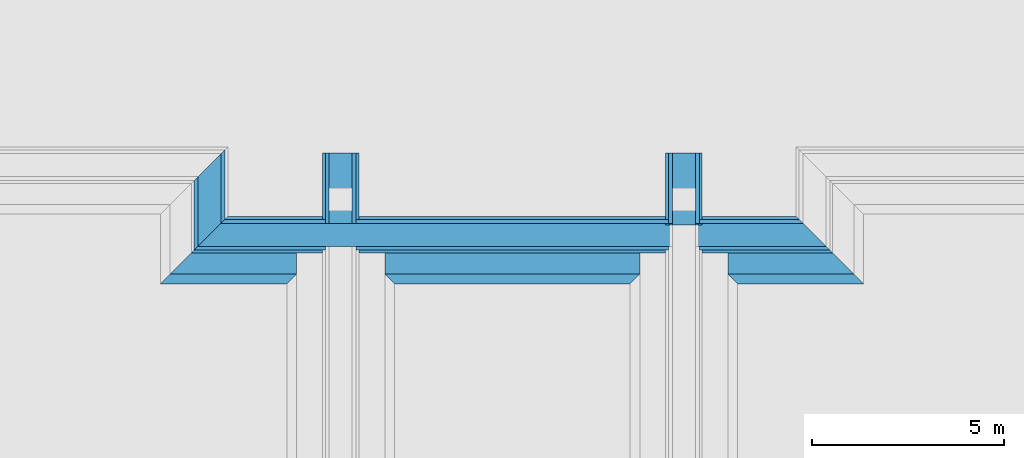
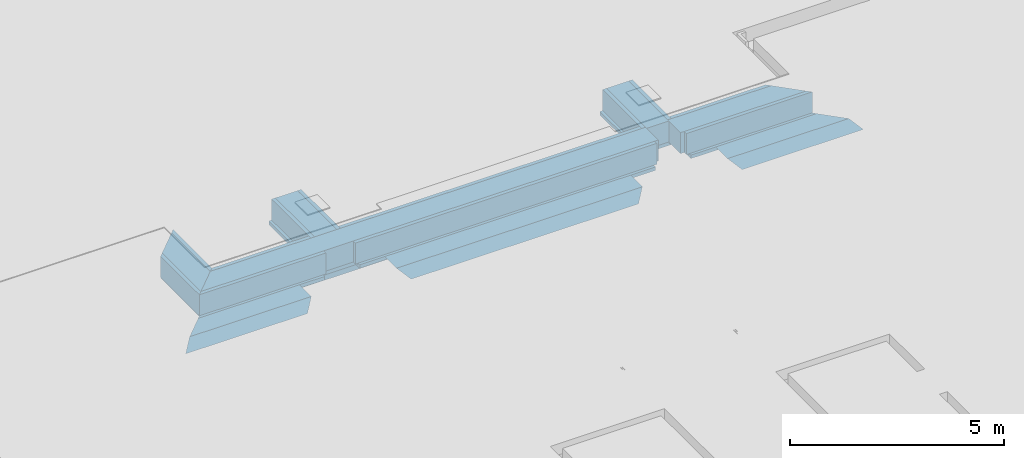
# One storey, part 13 of 15: 16 building element parts, 4 elements without a shape of their own.
"""IFC2X3 building model written with IfcOpenShell, lengths in millimetres."""

import ifcopenshell
import ifcopenshell.guid

model = None  # the IFC model being written
_history = None  # IfcOwnerHistory: only IFC2X3 demands one
_inside = {}  # id of a spatial element -> (the spatial element, [elements in it])
_under = {}  # id of a project, library or spatial element -> (it, [spatial elements below it])
_declared = {}  # id of a project -> (the project, [libraries it declares])
_typed = {}  # id of a type object -> (the type object, [elements of that type])
_made_of = {}  # id of a material, layer set ... -> (it, [elements and type objects made of it])


def new_model(schema):
    """Start an empty IFC model of exactly this schema.

    Asked for "IFC4X3", IfcOpenShell would pick the latest addendum, in which some entities
    have other attributes; the version numbers below select the first issue.
    IFC2X3 requires an IfcOwnerHistory on every rooted entity: one is made here for all.
    """
    global model, _history
    if schema == "IFC4X3":
        model = ifcopenshell.file(schema_version=(4, 3, 0, 0))
    else:
        model = ifcopenshell.file(schema=schema)
    _inside.clear()
    _under.clear()
    _declared.clear()
    _typed.clear()
    _made_of.clear()
    _history = None
    if model.schema == "IFC2X3":
        org = make("IfcOrganization", Name="unknown")
        user = make(
            "IfcPersonAndOrganization",
            ThePerson=make("IfcPerson", FamilyName="unknown"),
            TheOrganization=org,
        )
        app = make(
            "IfcApplication",
            ApplicationDeveloper=org,
            Version="unknown",
            ApplicationFullName="unknown",
            ApplicationIdentifier="unknown",
        )
        _history = make(
            "IfcOwnerHistory",
            OwningUser=user,
            OwningApplication=app,
            ChangeAction="ADDED",
            CreationDate=0,
        )
    return model


def make(cls, **values):
    """One entity of the class cls with the attributes given. An attribute that is None is left unset."""
    return model.create_entity(
        cls, **{name: value for name, value in values.items() if value is not None}
    )


def entity(cls, *values):
    """Any entity or typed value of the class cls, its attributes in the order of the schema. None: left unset."""
    e = model.create_entity(cls)
    for i, value in enumerate(values):
        if value is not None:
            e[i] = value
    return e


def rooted(cls, **values):
    """An entity with a GlobalId (a new one), such as an element, a storey or a relation."""
    return make(cls, GlobalId=ifcopenshell.guid.new(), OwnerHistory=_history, **values)


def si_unit(unit_type, name, prefix=None):
    """IfcSIUnit, for example si_unit("LENGTHUNIT", "METRE", prefix="MILLI")."""
    return make("IfcSIUnit", UnitType=unit_type, Prefix=prefix, Name=name)


def converted_unit(unit_type, name, factor, base, dimensions=None, offset=None):
    """IfcConversionBasedUnit, such as the inch: factor (a typed value) times the base unit."""
    return make(
        "IfcConversionBasedUnit"
        if offset is None
        else "IfcConversionBasedUnitWithOffset",
        ConversionOffset=offset,
        Dimensions=None
        if dimensions is None
        else entity("IfcDimensionalExponents", *dimensions),
        UnitType=unit_type,
        Name=name,
        ConversionFactor=make(
            "IfcMeasureWithUnit", ValueComponent=factor, UnitComponent=base
        ),
    )


def derived_unit(unit_type, elements):
    """IfcDerivedUnit: a product of units, each with its exponent."""
    return make(
        "IfcDerivedUnit",
        Elements=[
            make("IfcDerivedUnitElement", Unit=unit, Exponent=power)
            for unit, power in elements
        ],
        UnitType=unit_type,
    )


def money_unit(currency):
    """IfcMonetaryUnit."""
    return make("IfcMonetaryUnit", Currency=currency)


def assignment(units):
    """IfcUnitAssignment: the units of a project."""
    return None if units is None else make("IfcUnitAssignment", Units=units)


def point(xyz):
    """IfcCartesianPoint."""
    return None if xyz is None else make("IfcCartesianPoint", Coordinates=xyz)


def direction(xyz):
    """IfcDirection."""
    return None if xyz is None else make("IfcDirection", DirectionRatios=xyz)


def frame(location, z_axis=None, x_axis=None):
    """IfcAxis2Placement3D, a coordinate frame: its origin and axes. An axis left out is left unset."""
    return make(
        "IfcAxis2Placement3D",
        Location=point(location),
        Axis=direction(z_axis),
        RefDirection=direction(x_axis),
    )


def origin_with_axes():
    """The frame at (0, 0, 0) with the z axis (0, 0, 1) and the x axis (1, 0, 0) written out."""
    return frame((0.0, 0.0, 0.0), z_axis=(0.0, 0.0, 1.0), x_axis=(1.0, 0.0, 0.0))


def place(relative_to, where):
    """IfcLocalPlacement: puts the frame where relative to a parent placement (None: the world)."""
    return make(
        "IfcLocalPlacement", PlacementRelTo=relative_to, RelativePlacement=where
    )


def context(
    kind, dimensions, precision=None, world=None, true_north=None, identifier=None
):
    """IfcGeometricRepresentationContext, for example the 3D "Model" context."""
    return make(
        "IfcGeometricRepresentationContext",
        ContextIdentifier=identifier,
        ContextType=kind,
        CoordinateSpaceDimension=dimensions,
        Precision=precision,
        WorldCoordinateSystem=world,
        TrueNorth=true_north,
    )


def subcontext(parent, identifier, kind, view, scale=None):
    """IfcGeometricRepresentationSubContext, for example "Body" below "Model"."""
    return make(
        "IfcGeometricRepresentationSubContext",
        ContextIdentifier=identifier,
        ContextType=kind,
        ParentContext=parent,
        TargetScale=scale,
        TargetView=view,
    )


def project(units=None, contexts=None):
    """IfcProject with its units and contexts."""
    return rooted(
        "IfcProject",
        Name="project",
        RepresentationContexts=contexts,
        UnitsInContext=assignment(units),
    )


def spatial(cls, under=None, at=None, **own):
    """A site, building, storey or space (cls), placed at a placement, below another one or the project."""
    s = rooted(cls, ObjectPlacement=at, **own)
    if under is not None:
        _under.setdefault(under.id(), (under, []))[1].append(s)
    return s


def faces_of(points, faces, orient=None, outer=None):
    """IfcFace entities. A face is a list of loops; a loop is a list of indices into points, from 0.

    orient and outer hold one flag for each loop. By default every Orientation is true, the
    first loop of a face is its IfcFaceOuterBound and the others are IfcFaceBound.
    """
    made = []
    for i, loops in enumerate(faces):
        bounds = []
        for j, loop in enumerate(loops):
            is_outer = j == 0 if outer is None else outer[i][j]
            bounds.append(
                make(
                    "IfcFaceOuterBound" if is_outer else "IfcFaceBound",
                    Bound=make("IfcPolyLoop", Polygon=[points[k] for k in loop]),
                    Orientation=True if orient is None else orient[i][j],
                )
            )
        made.append(make("IfcFace", Bounds=bounds))
    return made


def faceted_brep(points, faces, orient=None, outer=None, voids=None):
    """IfcFacetedBrep: a solid bounded by flat faces; with voids (closed shells), ...WithVoids."""
    shared = [point(p) for p in points]
    hull = make("IfcClosedShell", CfsFaces=faces_of(shared, faces, orient, outer))
    if voids is None:
        return make("IfcFacetedBrep", Outer=hull)
    return make(
        "IfcFacetedBrepWithVoids",
        Outer=hull,
        Voids=[
            make(cls, CfsFaces=faces_of(shared, fs, o, b)) for cls, fs, o, b in voids
        ],
    )


def shape(context_of_items, identifier, shape_type, items):
    """IfcShapeRepresentation: the items that make up one representation, for example the "Body"."""
    return make(
        "IfcShapeRepresentation",
        ContextOfItems=context_of_items,
        RepresentationIdentifier=identifier,
        RepresentationType=shape_type,
        Items=items,
    )


def material(Name=None, Category=None):
    """IfcMaterial."""
    return make("IfcMaterial", Name=Name, Category=Category)


def made_of(thing, what):
    """Note that an element or type object is made of a material, layer set ...; save() writes the relation."""
    if what is not None:
        _made_of.setdefault(what.id(), (what, []))[1].append(thing)
    return thing


def type_object(cls, material=None, **own):
    """A type object (cls), such as IfcWallType, which elements share."""
    return made_of(rooted(cls, **own), material)


def element(
    cls,
    number,
    at=None,
    inside=None,
    cuts=None,
    type_object=None,
    material=None,
    context=None,
    identifier="Body",
    shape_type=None,
    held_by="IfcProductDefinitionShape",
    body=None,
    shapes=None,
    **own,
):
    """One element of the class cls, such as IfcWall. Its Tag is "e" and its number.

    at: its placement. inside: the storey or other place that contains it. cuts: it is an
    opening in that element (IfcRelVoidsElement). A single representation is given by context,
    identifier, shape_type and body (its items); several are given by shapes. held_by: the class
    of the entity that holds the representations. save() writes the other relations.
    """
    e = rooted(cls, Tag="e%d" % number, ObjectPlacement=at, **own)
    if body is not None:
        shapes = [shape(context, identifier, shape_type, body)]
    if shapes is not None:
        e.Representation = make(held_by, Representations=shapes)
    if inside is not None:
        _inside.setdefault(inside.id(), (inside, []))[1].append(e)
    if cuts is not None:
        rooted(
            "IfcRelVoidsElement", RelatingBuildingElement=cuts, RelatedOpeningElement=e
        )
    if type_object is not None:
        _typed.setdefault(type_object.id(), (type_object, []))[1].append(e)
    return made_of(e, material)


def aggregate(whole, parts):
    """IfcRelAggregates: a whole, such as a stair, and the parts it consists of."""
    return rooted("IfcRelAggregates", RelatingObject=whole, RelatedObjects=parts)


def save(model, path):
    """Write the relations noted so far, then the file.

    IfcRelAggregates (storeys below a building ...), IfcRelContainedInSpatialStructure (elements
    in a storey), IfcRelDefinesByType, IfcRelAssociatesMaterial and IfcRelDeclares: one each for
    every whole, place, type object, material and project.
    """
    for whole, parts in _under.values():
        aggregate(whole, parts)
    for where, things in _inside.values():
        rooted(
            "IfcRelContainedInSpatialStructure",
            RelatedElements=things,
            RelatingStructure=where,
        )
    for kind, things in _typed.values():
        rooted("IfcRelDefinesByType", RelatedObjects=things, RelatingType=kind)
    for what, things in _made_of.values():
        rooted("IfcRelAssociatesMaterial", RelatedObjects=things, RelatingMaterial=what)
    for by, libraries in _declared.values():
        rooted("IfcRelDeclares", RelatingContext=by, RelatedDefinitions=libraries)
    model.write(path)


model = new_model("IFC2X3")

# Units and contexts
model_context = context("Model", 3, precision=0.01, world=origin_with_axes(), true_north=direction((0.0, 1.0)))
plan_context = context("Plan", 3, precision=0.01, world=origin_with_axes(), true_north=direction((0.0, 1.0)))
body_context = subcontext(model_context, "Body", "Model", "MODEL_VIEW")
ifc_project = project(units=[si_unit("LENGTHUNIT", "METRE", prefix="MILLI"), si_unit("AREAUNIT", "SQUARE_METRE"), si_unit("VOLUMEUNIT", "CUBIC_METRE"), converted_unit("PLANEANGLEUNIT", "DEGREE", entity("IfcPlaneAngleMeasure", 0.0174532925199), si_unit("PLANEANGLEUNIT", "RADIAN"), dimensions=[0, 0, 0, 0, 0, 0, 0]), money_unit("EUR"), converted_unit("TIMEUNIT", "Year", entity("IfcTimeMeasure", 31556926.0), si_unit("TIMEUNIT", "SECOND"), dimensions=[0, 0, 1, 0, 0, 0, 0]), si_unit("MASSUNIT", "GRAM", prefix="KILO"), si_unit("THERMODYNAMICTEMPERATUREUNIT", "DEGREE_CELSIUS"), si_unit("LUMINOUSINTENSITYUNIT", "LUMEN"), si_unit("ENERGYUNIT", "JOULE", prefix="MEGA"), derived_unit("THERMALCONDUCTANCEUNIT", [(si_unit("POWERUNIT", "WATT"), 1), (si_unit("LENGTHUNIT", "METRE"), -1), (si_unit("THERMODYNAMICTEMPERATUREUNIT", "KELVIN"), -1)]), derived_unit("SPECIFICHEATCAPACITYUNIT", [(si_unit("ENERGYUNIT", "JOULE"), 1), (si_unit("MASSUNIT", "GRAM", prefix="KILO"), -1), (si_unit("THERMODYNAMICTEMPERATUREUNIT", "KELVIN"), -1)]), derived_unit("MASSDENSITYUNIT", [(si_unit("MASSUNIT", "GRAM", prefix="KILO"), 1), (si_unit("VOLUMEUNIT", "CUBIC_METRE"), -1)])], contexts=[model_context, plan_context])

# Site, building, storey
site_placement = place(None, origin_with_axes())
site = spatial("IfcSite", under=ifc_project, at=site_placement, Name="Site", CompositionType="ELEMENT")
building_placement = place(site_placement, origin_with_axes())
building = spatial("IfcBuilding", under=site, at=building_placement, Name="Naam gebouw", CompositionType="ELEMENT")
storey_placement = place(building_placement, frame((0.0, 0.0, -1050.0), z_axis=(0.0, 0.0, 1.0), x_axis=(1.0, 0.0, 0.0)))
storey = spatial("IfcBuildingStorey", under=building, at=storey_placement, Name="fundering", CompositionType="ELEMENT", Elevation=-1050.0)

# Beam, building element parts
beam_type_1 = type_object("IfcBeamType", Name="Fundering balk IsoBouw Powerkist buiten 950 x 700", PredefinedType="BEAM")
beam_1_placement = place(storey_placement, frame((35604.9999998, 47338.0, -60.0000017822), z_axis=(0.0, 0.0, 1.0), x_axis=(-1.0, 0.0, 0.0)))
beam_1 = element("IfcBeam", 1, at=beam_1_placement, inside=storey, type_object=beam_type_1, Name="28_Balk-x", ObjectType="BEAM")
ifc_material_1 = material(Name="Isolatie - EPS")
building_element_part_1_placement = place(beam_1_placement, origin_with_axes())
building_element_part_1 = element("IfcBuildingElementPart", 2, at=building_element_part_1_placement, material=ifc_material_1, Name="Isolatie - EPS", context=body_context, shape_type="Brep", body=[
    faceted_brep([(380.000371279, 0.0, 8.43651903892e-06), (380.000371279, 1834.99998878, 8.43651903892e-06), (380.000371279, 1834.99998878, -49.0824435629), (380.000371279, 0.0, -49.0824435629), (400.000361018, 0.0, 8.43651903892e-06), (400.000361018, 1834.99998878, 8.43651903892e-06), (475.000375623, 1834.99998878, 8.43651926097e-06), (475.000375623, 1834.99998878, -99.9999968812), (-475.000375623, 1834.99998878, -99.9999968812), (-475.000375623, 1834.99998878, 8.43651903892e-06), (-400.000361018, 1834.99998878, 8.43651903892e-06), (-380.000371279, 1834.99998878, 8.43651903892e-06), (-380.000371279, 1834.99998878, -49.0824435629), (-300.000369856, 1834.99998878, -49.0824435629), (-300.000369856, 1834.99998878, 8.43651903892e-06), (300.000369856, 1834.99998878, 8.43651903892e-06), (300.000369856, 1834.99998878, -49.0824435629), (300.000369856, 0.0, -49.0824435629), (300.000369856, 0.0, 8.43651903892e-06), (-300.000369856, 0.0, 8.43651903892e-06), (-300.000369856, 0.0, -49.0824435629), (-380.000371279, 0.0, -49.0824435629), (-380.000371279, 0.0, 8.43651903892e-06), (-400.000361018, 0.0, 8.43651903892e-06), (-475.000375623, 0.0, 8.43651903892e-06), (-475.000375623, 0.0, -99.9999968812), (475.000375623, 0.0, -99.9999968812), (475.000375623, 0.0, 8.43651926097e-06)], [[[0, 1, 2, 3]], [[4, 5, 1, 0]], [[2, 1, 5, 6, 7, 8, 9, 10, 11, 12, 13, 14, 15, 16]], [[3, 2, 16, 17]], [[4, 0, 3, 17, 18, 19, 20, 21, 22, 23, 24, 25, 26, 27]], [[27, 6, 5, 4]], [[26, 7, 6, 27]], [[25, 8, 7, 26]], [[24, 9, 8, 25]], [[23, 10, 9, 24]], [[22, 11, 10, 23]], [[21, 12, 11, 22]], [[20, 13, 12, 21]], [[19, 14, 13, 20]], [[18, 15, 14, 19]], [[17, 16, 15, 18]]]),
])
building_element_part_2_placement = place(beam_1_placement, origin_with_axes())
building_element_part_2 = element("IfcBuildingElementPart", 3, at=building_element_part_2_placement, material=ifc_material_1, Name="Isolatie - EPS", context=body_context, shape_type="Brep", body=[
    faceted_brep([(-380.000369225, 0.0, 2.4249691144e-06), (-400.000366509, 0.0, 2.4249691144e-06), (-400.000366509, 1834.99998878, 2.4249691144e-06), (-380.000369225, 1834.99998878, 2.4249691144e-06), (-300.00036966, 0.0, 600.000004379), (-400.000366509, 0.0, 600.000004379), (-380.000369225, 0.0, -49.0824424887), (-300.00036966, 0.0, -49.0824424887), (-400.000366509, 1834.99998878, 600.000004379), (-380.000369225, 1834.99998878, -49.0824424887), (-300.00036966, 1834.99998878, 600.000004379), (-300.00036966, 1834.99998878, -49.0824424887)], [[[0, 1, 2, 3]], [[4, 5, 1, 0, 6, 7]], [[1, 5, 8, 2]], [[9, 3, 2, 8, 10, 11]], [[6, 0, 3, 9]], [[5, 4, 10, 8]], [[7, 6, 9, 11]], [[4, 7, 11, 10]]]),
])
building_element_part_3_placement = place(beam_1_placement, origin_with_axes())
building_element_part_3 = element("IfcBuildingElementPart", 4, at=building_element_part_3_placement, material=ifc_material_1, Name="Isolatie - EPS", context=body_context, shape_type="Brep", body=[
    faceted_brep([(300.00036966, 0.0, 600.000004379), (400.000366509, 0.0, 600.000004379), (400.000366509, 1834.99998878, 600.000004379), (300.00036966, 1834.99998878, 600.000004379), (380.000369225, 0.0, 2.4249691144e-06), (400.000366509, 0.0, 2.4249691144e-06), (300.00036966, 0.0, -49.0824424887), (380.000369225, 0.0, -49.0824424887), (400.000366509, 1834.99998878, 2.4249691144e-06), (300.00036966, 1834.99998878, -49.0824424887), (380.000369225, 1834.99998878, 2.4249691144e-06), (380.000369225, 1834.99998878, -49.0824424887)], [[[0, 1, 2, 3]], [[4, 5, 1, 0, 6, 7]], [[1, 5, 8, 2]], [[9, 3, 2, 8, 10, 11]], [[6, 0, 3, 9]], [[5, 4, 10, 8]], [[7, 6, 9, 11]], [[4, 7, 11, 10]]]),
])
ifc_material_2 = material(Name="Beton gewapend C")
building_element_part_4_placement = place(beam_1_placement, origin_with_axes())
building_element_part_4 = element("IfcBuildingElementPart", 5, at=building_element_part_4_placement, material=ifc_material_2, Name="Beton gewapend C", context=body_context, shape_type="Brep", body=[
    faceted_brep([(300.000372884, 1834.99998878, 600.0), (-300.000372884, 1834.99998878, 600.0), (-300.000372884, 0.0, 600.0), (300.000372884, 0.0, 600.0), (300.000372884, 1834.99998878, 0.0), (-300.000372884, 1834.99998878, 0.0), (-300.000372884, 0.0, 0.0), (300.000372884, 0.0, 0.0)], [[[0, 1, 2, 3]], [[0, 4, 5, 1]], [[1, 5, 6, 2]], [[3, 2, 6, 7]], [[4, 0, 3, 7]], [[5, 4, 7, 6]]]),
])
aggregate(beam_1, [building_element_part_1, building_element_part_2, building_element_part_3, building_element_part_4])

beam_type_2 = type_object("IfcBeamType", Name="Fundering balk IsoBouw Powerkist buitenwand 1750 x 850", PredefinedType="BEAM")
beam_2_placement = place(storey_placement, frame((32140.0, 45153.0, -60.0000017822), z_axis=(0.0, 0.0, 1.0), x_axis=(0.0, -1.0, 0.0)))
beam_2 = element("IfcBeam", 6, at=beam_2_placement, inside=storey, type_object=beam_type_2, Name="28_Balk-x", ObjectType="BEAM")
ifc_material_3 = material(Name="ALG - TERREIN")
building_element_part_5_placement = place(beam_2_placement, origin_with_axes())
building_element_part_5 = element("IfcBuildingElementPart", 7, at=building_element_part_5_placement, material=ifc_material_3, Name="ALG - TERREIN", context=body_context, shape_type="Brep", body=[
    faceted_brep([(249.999959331, 2064.99962438, -249.999996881), (1225.00000274, 2064.99962437, -249.999996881), (1225.00000274, -1225.00000274, -249.999996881), (-49.9999938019, 49.9999938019, -249.999996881), (-49.9999938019, 11004.9996244, -249.999996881), (1225.00000274, 11004.9996244, -249.999996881), (1225.00000274, 4865.00037564, -249.999996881), (249.999959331, 4865.00037562, -249.999996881), (425.00000274, 2214.99959021, -99.9999968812), (425.00000274, 2314.99960205, 2.42768471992e-06), (975.000013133, 2314.99960205, 2.6421356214e-06), (249.999988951, 2214.99962333, -99.9999968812), (975.000013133, -975.000013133, -7.27431315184e-06), (425.000015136, -425.000015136, -7.27431315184e-06), (425.000015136, -425.000015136, -99.9999926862), (-49.9999938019, 49.9999938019, -99.9999926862), (-49.9999938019, 11154.9996286, -99.9999926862), (425.00000274, 11154.9996244, -99.9999968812), (425.00000274, 11254.999602, 7.15338899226e-07), (975.000013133, 11254.999602, 1.39454758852e-06), (975.000013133, 4615.00039795, 4.52027215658e-06), (425.00000274, 4615.00039795, 3.86505583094e-06), (425.00000274, 4715.00037562, -99.9999968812), (249.999988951, 4715.00037562, -99.9999968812), (249.999959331, 3940.00039566, -99.9999968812), (249.999959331, 2989.99960434, -99.9999968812)], [[[0, 1, 2, 3, 4, 5, 6, 7]], [[8, 9, 10, 1, 0, 11]], [[1, 10, 12, 2]], [[3, 2, 12, 13, 14, 15]], [[15, 16, 4, 3]], [[16, 17, 18, 19, 5, 4]], [[20, 6, 5, 19]], [[7, 6, 20, 21, 22, 23]], [[0, 7, 23, 24, 25, 11]], [[9, 8, 14, 13]], [[10, 9, 13, 12]], [[23, 22, 17, 16, 15, 14, 8, 11, 25, 24]], [[22, 21, 18, 17]], [[21, 20, 19, 18]]]),
    faceted_brep([(1225.00000274, 13805.0003756, -249.999996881), (-49.9999938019, 13805.0003756, -249.999996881), (-49.9999938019, 15805.0001027, -249.999996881), (1225.00000274, 17080.0004254, -249.999996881), (-49.9999938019, 13655.0003714, -99.9999926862), (975.000013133, 13555.000398, 3.76615405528e-07), (425.00000274, 13555.000398, 7.15338899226e-07), (425.00000274, 13655.0003756, -99.9999968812), (-49.9999938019, 15805.0001027, -99.9999926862), (425.000015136, 16280.0002331, -7.27431315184e-06), (975.000013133, 16830.0003718, -7.27431315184e-06), (425.000015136, 16280.0002331, -99.9999926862)], [[[0, 1, 2, 3]], [[4, 1, 0, 5, 6, 7]], [[1, 4, 8, 2]], [[9, 10, 3, 2, 8, 11]], [[5, 0, 3, 10]], [[6, 5, 10, 9]], [[7, 6, 9, 11]], [[4, 7, 11, 8]]]),
])
building_element_part_6_placement = place(beam_2_placement, origin_with_axes())
building_element_part_6 = element("IfcBuildingElementPart", 8, at=building_element_part_6_placement, material=ifc_material_1, Name="Isolatie - EPS", context=body_context, shape_type="Brep", body=[
    faceted_brep([(-525.00000274, 3940.00037561, -99.9999968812), (-525.00000274, 3940.00037561, 8.43651903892e-06), (-525.00000274, 11929.9996244, 8.43651926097e-06), (-525.00000274, 11929.9996244, -99.9999968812), (-449.999990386, 3940.00037561, 8.43651903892e-06), (-350.000011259, 3940.00037562, -99.9999968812), (-350.000011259, 3940.00037562, -49.0824415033), (-430.000002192, 3940.00037562, -49.0824424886), (-430.000002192, 3940.00037562, 8.43651903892e-06), (-449.999990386, 11929.9996244, 8.43651926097e-06), (-49.9999938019, 11929.9996244, -99.9999968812), (-430.000002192, 11929.9996244, 8.43651926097e-06), (-430.000002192, 11929.9996244, -49.082442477), (-349.99999279, 11929.9996244, -49.0824424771), (-349.99999279, 11929.9996244, 8.43651926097e-06), (249.999999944, 11929.9996244, 8.43651926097e-06), (249.99999279, 11929.9996244, -49.0824424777), (330.000002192, 11929.9996244, -49.0824424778), (330.000002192, 11929.9996244, 8.43651926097e-06), (349.999990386, 11929.9996244, 8.43651926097e-06), (425.00000274, 11929.9996244, 8.43651926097e-06), (425.00000274, 11929.9996244, -99.9999968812), (-49.9999938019, 49.9999938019, -99.9999926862), (-525.00000274, 525.00000274, -99.9999968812), (-525.00000274, 2989.99962436, -99.9999968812), (-350.00001118, 2989.99962438, -99.9999968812), (-350.00001118, 2989.99962438, -49.0824413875), (-349.99999279, 349.99999279, -49.0824410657), (-349.99999279, 349.99999279, 7.15338899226e-07), (249.99999279, -249.99999279, 7.15338899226e-07), (249.999959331, 2989.99962438, -99.9999968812), (249.999959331, 3940.00037562, -99.9999968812), (249.999959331, 3940.00037562, -49.0824415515), (249.99999279, -249.99999279, -49.0824410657), (249.999959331, 2989.99962438, -49.0824414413), (330.000002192, 3940.00037562, -49.0824424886), (330.000002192, 3940.00037562, 8.43651903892e-06), (349.999990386, 3940.00037562, 8.43651903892e-06), (425.00000274, 3940.00037562, 8.43651903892e-06), (425.00000274, 3940.00037562, -99.9999968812), (425.00000274, 2989.99962438, -99.9999968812), (425.00000274, -425.00000274, -99.9999968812), (425.00000274, -425.00000274, 7.15338899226e-07), (349.999990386, -349.999990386, 7.15338899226e-07), (330.000002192, -330.000002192, 7.15338899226e-07), (330.000002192, -330.000002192, -49.0824410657), (-430.000002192, 430.000002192, -49.0824410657), (-430.000002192, 430.000002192, 7.15338899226e-07), (-449.999990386, 449.999990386, 7.15338899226e-07), (-525.00000274, 525.00000274, 7.15338899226e-07), (-525.00000274, 2989.99962436, 8.43651926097e-06), (-449.999990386, 2989.99962437, 8.43651926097e-06), (-430.000002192, 2989.99962437, 8.43651926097e-06), (-430.000002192, 2989.99962437, -49.0824424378), (330.000002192, 2989.99962438, -49.0824424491), (330.000002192, 2989.99962438, 8.43651926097e-06), (349.999990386, 2989.99962438, 8.43651926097e-06), (425.00000274, 2989.99962438, 8.43651926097e-06)], [[[0, 1, 2, 3]], [[4, 1, 0, 5, 6, 7, 8]], [[1, 4, 9, 2]], [[10, 3, 2, 9, 11, 12, 13, 14, 15, 16, 17, 18, 19, 20, 21]], [[5, 0, 3, 10, 22, 23, 24, 25]], [[26, 27, 28, 14, 13, 6, 5, 25]], [[7, 6, 13, 12]], [[8, 7, 12, 11]], [[4, 8, 11, 9]], [[15, 14, 28, 29]], [[30, 31, 32, 16, 15, 29, 33, 34]], [[17, 16, 32, 35]], [[18, 17, 35, 36]], [[19, 18, 36, 37]], [[20, 19, 37, 38]], [[21, 20, 38, 39]], [[39, 31, 30, 40, 41, 22, 10, 21]], [[22, 41, 42, 43, 44, 45, 33, 29, 28, 27, 46, 47, 48, 49, 23]], [[50, 24, 23, 49]], [[24, 50, 51, 52, 53, 26, 25]], [[26, 53, 46, 27]], [[37, 36, 35, 32, 31, 39, 38]], [[33, 45, 54, 34]], [[40, 30, 34, 54, 55, 56, 57]], [[42, 41, 40, 57]], [[43, 42, 57, 56]], [[44, 43, 56, 55]], [[45, 44, 55, 54]], [[53, 52, 47, 46]], [[52, 51, 48, 47]], [[51, 50, 49, 48]]]),
    faceted_brep([(-525.00000274, 12880.0003756, -99.9999968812), (-525.00000274, 12880.0003756, 8.43651903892e-06), (-525.00000274, 15329.9999722, 7.15338899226e-07), (-525.00000274, 15329.9999722, -99.9999968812), (-300.0, 12880.0003756, 8.43651903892e-06), (-349.99999279, 12880.0003756, 8.43651903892e-06), (-349.99999279, 12880.0003756, -49.082442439), (-430.000002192, 12880.0003756, -49.0824424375), (-430.000002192, 12880.0003756, 8.43651903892e-06), (-449.999990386, 12880.0003756, 8.43651903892e-06), (-300.0, 12880.0003756, -99.9999968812), (-49.9999938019, 12880.0003756, -99.9999968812), (425.00000274, 12880.0003756, -99.9999968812), (425.00000274, 12880.0003756, 8.43651903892e-06), (349.999990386, 12880.0003756, 8.43651903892e-06), (330.000002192, 12880.0003756, 8.43651903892e-06), (330.000002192, 12880.0003756, -49.0824424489), (249.99999279, 12880.0003756, -49.082442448), (249.999999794, 12880.0003756, 8.43651903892e-06), (-449.999990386, 15405.0000037, 7.15338899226e-07), (249.99999279, 16105.000166, 7.15338899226e-07), (249.99999279, 16105.000166, -49.0824410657), (330.000002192, 16185.0001959, -49.0824410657), (330.000002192, 16185.0001959, 7.15338899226e-07), (349.999990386, 16205.0001892, 7.15338899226e-07), (425.00000274, 16280.0002207, 7.15338899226e-07), (425.00000274, 16280.0002207, -99.9999968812), (-49.9999938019, 15805.0001027, -99.9999926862), (-430.000002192, 15424.999997, 7.15338899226e-07), (-430.000002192, 15424.999997, -49.0824410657), (-349.99999279, 15505.0000269, -49.0824410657), (-349.99999279, 15505.0000269, 7.15338899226e-07)], [[[0, 1, 2, 3]], [[4, 5, 6, 7, 8, 9, 1, 0, 10, 11, 12, 13, 14, 15, 16, 17, 18]], [[1, 9, 19, 2]], [[20, 21, 22, 23, 24, 25, 26, 27, 3, 2, 19, 28, 29, 30, 31]], [[10, 0, 3, 27, 11]], [[5, 4, 18, 20, 31]], [[6, 5, 31, 30]], [[7, 6, 30, 29]], [[8, 7, 29, 28]], [[9, 8, 28, 19]], [[27, 26, 12, 11]], [[26, 25, 13, 12]], [[25, 24, 14, 13]], [[24, 23, 15, 14]], [[23, 22, 16, 15]], [[22, 21, 17, 16]], [[21, 20, 18, 17]]]),
])
building_element_part_7_placement = place(beam_2_placement, origin_with_axes())
building_element_part_7 = element("IfcBuildingElementPart", 9, at=building_element_part_7_placement, material=ifc_material_1, Name="Isolatie - EPS", context=body_context, shape_type="Brep", body=[
    faceted_brep([(-350.000011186, 3064.99963349, 600.000004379), (-350.000011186, 3064.99963898, 8.43651903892e-06), (-429.999996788, 3064.99963898, 8.43651903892e-06), (-449.999993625, 3064.99963348, 2.4249691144e-06), (-449.999993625, 3064.99963348, 600.000004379), (-350.00001118, 2989.99962438, -49.0824424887), (-350.00001118, 2989.99962438, 8.43651926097e-06), (-349.999999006, 349.999999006, 600.000001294), (-349.999999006, 349.999999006, -49.0824424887), (-429.999996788, 2989.99962437, 8.43651926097e-06), (-429.999996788, 429.999996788, 2.28759100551e-06), (-449.999993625, 449.999993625, 2.28759100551e-06), (-449.999993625, 449.999993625, 600.000001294), (-429.999996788, 2989.99962437, -49.0824424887), (-429.999996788, 429.999996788, -49.0824424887)], [[[0, 1, 2, 3, 4]], [[5, 6, 1, 0, 7, 8]], [[6, 9, 2, 1]], [[3, 2, 9, 10, 11]], [[12, 4, 3, 11]], [[7, 0, 4, 12]], [[5, 13, 9, 6]], [[8, 7, 12, 11, 10, 14]], [[14, 13, 5, 8]], [[10, 9, 13, 14]]]),
    faceted_brep([(-429.999996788, 11929.9996244, -49.0824424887), (-429.999996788, 3940.00037562, -49.0824424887), (-429.999996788, 3940.00037562, 8.43651903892e-06), (-429.999996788, 11929.9996244, 8.43651926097e-06), (-349.999999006, 11929.9996244, -49.0824424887), (-350.000011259, 3940.00037562, -49.0824424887), (-350.000011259, 3940.00037562, 8.43651903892e-06), (-429.999996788, 3865.00036101, 8.43651903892e-06), (-449.999993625, 3865.0003665, 2.4249691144e-06), (-449.999993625, 12004.9996335, 2.4249691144e-06), (-429.999996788, 12004.999639, 8.43651903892e-06), (-349.999999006, 11929.9996244, 8.43651926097e-06), (-350.000011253, 3865.00036102, 8.43651903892e-06), (-349.999999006, 12004.999639, 8.43651903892e-06), (-349.999999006, 12004.9996335, 600.000004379), (-350.000011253, 3865.00036651, 600.000004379), (-449.999993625, 3865.0003665, 600.000004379), (-449.999993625, 12004.9996335, 600.000004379)], [[[0, 1, 2, 3]], [[4, 5, 1, 0]], [[6, 2, 1, 5]], [[3, 2, 7, 8, 9, 10]], [[11, 4, 0, 3]], [[12, 6, 5, 4, 11, 13, 14, 15]], [[12, 7, 2, 6]], [[8, 7, 12, 15, 16]], [[9, 8, 16, 17]], [[17, 14, 13, 10, 9]], [[13, 11, 3, 10]], [[17, 16, 15, 14]]]),
    faceted_brep([(-429.999996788, 15425.0000024, -49.0824424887), (-429.999996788, 12880.0003756, -49.0824424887), (-429.999996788, 12880.0003756, 8.43651903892e-06), (-429.999996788, 15425.0000024, 2.28759100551e-06), (-349.999999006, 15505.0000207, -49.0824424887), (-349.999999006, 12880.0003756, -49.0824424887), (-349.999999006, 12880.0003756, 8.43651903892e-06), (-429.999996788, 12805.000361, 8.43651903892e-06), (-449.999993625, 12805.0003665, 2.4249691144e-06), (-449.999993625, 15405.0000005, 2.28759100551e-06), (-449.999993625, 15405.0000005, 600.000001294), (-349.999999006, 15505.0000207, 600.000001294), (-349.999999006, 12805.000361, 8.43651903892e-06), (-349.999999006, 12805.0003665, 600.000004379), (-449.999993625, 12805.0003665, 600.000004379)], [[[0, 1, 2, 3]], [[4, 5, 1, 0]], [[6, 2, 1, 5]], [[3, 2, 7, 8, 9]], [[0, 3, 9, 10, 11, 4]], [[12, 6, 5, 4, 11, 13]], [[12, 7, 2, 6]], [[8, 7, 12, 13, 14]], [[9, 8, 14, 10]], [[10, 14, 13, 11]]]),
])
building_element_part_8_placement = place(beam_2_placement, origin_with_axes())
building_element_part_8 = element("IfcBuildingElementPart", 10, at=building_element_part_8_placement, material=ifc_material_1, Name="Isolatie - EPS", context=body_context, shape_type="Brep", body=[
    faceted_brep([(349.999993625, 3064.99963349, 2.41745157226e-06), (329.999996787, 3064.99963898, 8.43651903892e-06), (249.999959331, 3064.99963898, 8.43651903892e-06), (249.999959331, 3064.99963349, 600.000004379), (349.999993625, 3064.99963349, 600.000004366), (329.999996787, -329.999996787, 4.06975675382e-06), (329.999996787, 2989.99962438, 8.43651926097e-06), (349.999993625, -349.999993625, 4.06975675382e-06), (249.999959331, 2989.99962438, 8.43651926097e-06), (249.999959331, 2989.99962438, -49.0824424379), (249.999999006, -249.999999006, -49.0824407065), (249.999999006, -249.999999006, 600.000003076), (349.999993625, -349.999993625, 600.000003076), (329.999996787, -329.999996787, -49.0824407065), (329.999996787, 2989.99962438, -49.0824424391)], [[[0, 1, 2, 3, 4]], [[5, 6, 1, 0, 7]], [[6, 8, 2, 1]], [[2, 8, 9, 10, 11, 3]], [[12, 4, 3, 11]], [[7, 0, 4, 12]], [[13, 14, 6, 5]], [[13, 5, 7, 12, 11, 10]], [[14, 9, 8, 6]], [[10, 9, 14, 13]]]),
    faceted_brep([(249.999959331, 3940.00037562, -49.0824424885), (249.999959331, 3940.00037562, 8.43651903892e-06), (249.999959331, 3865.00036102, 8.43651903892e-06), (249.999959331, 3865.00036651, 600.000004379), (250.0, 12004.9996335, 600.000001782), (250.0, 12004.999639, 8.43651903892e-06), (249.999999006, 11929.9996244, 8.43651926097e-06), (249.999999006, 11929.9996244, -49.0824424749), (329.999996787, 3940.00037562, 8.43651903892e-06), (329.999996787, 3940.00037562, -49.0824424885), (329.999996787, 3865.00036102, 8.43651903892e-06), (349.999993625, 3865.00036651, 2.40048181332e-06), (349.999993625, 3865.00036651, 600.000004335), (349.999993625, 12004.9996335, 600.000001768), (349.999993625, 12004.9996335, 1.76152359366e-06), (329.999996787, 12004.999639, 8.43651903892e-06), (329.999996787, 11929.9996244, 8.43651926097e-06), (329.999996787, 11929.9996244, -49.082442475)], [[[0, 1, 2, 3, 4, 5, 6, 7]], [[8, 1, 0, 9]], [[10, 2, 1, 8]], [[3, 2, 10, 11, 12]], [[4, 3, 12, 13]], [[13, 14, 15, 5, 4]], [[15, 16, 6, 5]], [[16, 17, 7, 6]], [[17, 9, 0, 7]], [[16, 8, 9, 17]], [[11, 10, 8, 16, 15, 14]], [[13, 12, 11, 14]]]),
    faceted_brep([(249.999999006, 12880.0003756, -49.0824424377), (249.999999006, 12880.0003756, 8.43651903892e-06), (250.0, 12805.000361, 8.43651903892e-06), (250.0, 12805.0003665, 600.000001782), (249.999999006, 16105.0001722, 600.000003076), (249.999999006, 16105.0001722, -49.0824407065), (329.999996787, 12880.0003756, 8.43651903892e-06), (329.999996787, 12880.0003756, -49.0824424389), (329.999996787, 12805.000361, 8.43651903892e-06), (349.999993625, 12805.0003665, 1.7841415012e-06), (349.999993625, 12805.0003665, 600.00000179), (349.999993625, 16205.0001924, 600.000003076), (349.999993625, 16205.0001924, 4.06975675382e-06), (329.999996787, 16185.0001905, 4.06975675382e-06), (329.999996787, 16185.0001905, -49.0824407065)], [[[0, 1, 2, 3, 4, 5]], [[6, 1, 0, 7]], [[8, 2, 1, 6]], [[3, 2, 8, 9, 10]], [[4, 3, 10, 11]], [[5, 4, 11, 12, 13, 14]], [[14, 7, 0, 5]], [[13, 6, 7, 14]], [[9, 8, 6, 13, 12]], [[11, 10, 9, 12]]]),
])
building_element_part_9_placement = place(beam_2_placement, origin_with_axes())
building_element_part_9 = element("IfcBuildingElementPart", 11, at=building_element_part_9_placement, material=ifc_material_2, Name="Beton gewapend C", context=body_context, shape_type="Brep", body=[
    faceted_brep([(250.0, -250.0, 600.000001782), (250.0, 12104.9996271, 600.0), (-350.0, 12104.9996271, 600.0), (-350.0, 350.0, 600.0), (250.0, 12104.9996271, 0.0), (250.0, -250.0, 1.78216552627e-06), (-350.0, 12104.9996271, 0.0), (-350.0, 350.0, 0.0)], [[[0, 1, 2, 3]], [[4, 1, 0, 5]], [[1, 4, 6, 2]], [[7, 3, 2, 6]], [[5, 0, 3, 7]], [[5, 7, 6, 4]]]),
    faceted_brep([(-350.0, 15505.0000197, 0.0), (-350.0, 12705.0003729, 0.0), (-350.0, 12705.0003729, 600.0), (-350.0, 15505.0000197, 600.0), (250.0, 12705.0003729, 0.0), (250.0, 16105.0001732, 1.78216552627e-06), (250.0, 12705.0003729, 600.0), (250.0, 16105.0001732, 600.000001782)], [[[0, 1, 2, 3]], [[4, 1, 0, 5]], [[6, 2, 1, 4]], [[3, 2, 6, 7]], [[7, 5, 0, 3]], [[4, 5, 7, 6]]]),
])
aggregate(beam_2, [building_element_part_5, building_element_part_6, building_element_part_7, building_element_part_8, building_element_part_9])

beam_3_placement = place(storey_placement, frame((44545.0, 47338.0, -60.0000017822), z_axis=(0.0, 0.0, 1.0), x_axis=(-1.0, 0.0, 0.0)))
beam_3 = element("IfcBeam", 12, at=beam_3_placement, inside=storey, type_object=beam_type_1, Name="28_Balk-x", ObjectType="BEAM")
building_element_part_10_placement = place(beam_3_placement, origin_with_axes())
building_element_part_10 = element("IfcBuildingElementPart", 13, at=building_element_part_10_placement, material=ifc_material_1, Name="Isolatie - EPS", context=body_context, shape_type="Brep", body=[
    faceted_brep([(380.000371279, 0.0, 8.43651903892e-06), (380.000371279, 1885.0, 8.43651903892e-06), (380.000371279, 1885.0, -49.0824435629), (380.000371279, 0.0, -49.0824435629), (400.000361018, 0.0, 8.43651903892e-06), (400.000361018, 1885.0, 8.43651903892e-06), (475.000375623, 1885.0, 8.43651926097e-06), (475.000375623, 1885.0, -99.9999968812), (-475.000375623, 1885.0, -99.9999968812), (-475.000375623, 1885.0, 8.43651903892e-06), (-400.000361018, 1885.0, 8.43651903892e-06), (-380.000371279, 1885.0, 8.43651903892e-06), (-380.000371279, 1885.0, -49.0824435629), (-300.000369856, 1885.0, -49.0824435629), (-300.000369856, 1885.0, 8.43651903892e-06), (300.000369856, 1885.0, 8.43651903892e-06), (300.000369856, 1885.0, -49.0824435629), (300.000369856, 0.0, -49.0824435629), (300.000369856, 0.0, 8.43651903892e-06), (-300.000369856, 0.0, 8.43651903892e-06), (-300.000369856, 0.0, -49.0824435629), (-380.000371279, 0.0, -49.0824435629), (-380.000371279, 0.0, 8.43651903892e-06), (-400.000361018, 0.0, 8.43651903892e-06), (-475.000375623, 0.0, 8.43651903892e-06), (-475.000375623, 0.0, -99.9999968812), (475.000375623, 0.0, -99.9999968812), (475.000375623, 0.0, 8.43651926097e-06)], [[[0, 1, 2, 3]], [[4, 5, 1, 0]], [[2, 1, 5, 6, 7, 8, 9, 10, 11, 12, 13, 14, 15, 16]], [[3, 2, 16, 17]], [[4, 0, 3, 17, 18, 19, 20, 21, 22, 23, 24, 25, 26, 27]], [[27, 6, 5, 4]], [[26, 7, 6, 27]], [[25, 8, 7, 26]], [[24, 9, 8, 25]], [[23, 10, 9, 24]], [[22, 11, 10, 23]], [[21, 12, 11, 22]], [[20, 13, 12, 21]], [[19, 14, 13, 20]], [[18, 15, 14, 19]], [[17, 16, 15, 18]]]),
])
building_element_part_11_placement = place(beam_3_placement, origin_with_axes())
building_element_part_11 = element("IfcBuildingElementPart", 14, at=building_element_part_11_placement, material=ifc_material_1, Name="Isolatie - EPS", context=body_context, shape_type="Brep", body=[
    faceted_brep([(-300.00036966, 0.0, 600.000004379), (-300.000372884, 1835.0, 600.0), (-400.000366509, 1835.0, 600.0), (-400.000366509, 0.0, 600.000004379), (-300.000372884, 1885.0, 0.0), (-300.000372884, 1835.0, 0.0), (-300.00036966, 0.0, -49.0824424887), (-300.00036966, 1885.0, -49.0824424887), (-380.000369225, 1835.0, 0.0), (-400.000366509, 1835.0, 0.0), (-400.000366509, 0.0, 2.4249691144e-06), (-380.000369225, 0.0, 2.4249691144e-06), (-380.000369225, 0.0, -49.0824424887), (-380.000369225, 1885.0, 0.0), (-380.000369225, 1885.0, -49.0824424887)], [[[0, 1, 2, 3]], [[4, 5, 1, 0, 6, 7]], [[8, 9, 2, 1, 5]], [[3, 2, 9, 10]], [[0, 3, 10, 11, 12, 6]], [[4, 13, 8, 5]], [[6, 12, 14, 7]], [[14, 13, 4, 7]], [[10, 9, 8, 11]], [[11, 8, 13, 14, 12]]]),
])
building_element_part_12_placement = place(beam_3_placement, origin_with_axes())
building_element_part_12 = element("IfcBuildingElementPart", 15, at=building_element_part_12_placement, material=ifc_material_1, Name="Isolatie - EPS", context=body_context, shape_type="Brep", body=[
    faceted_brep([(400.000366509, 0.0, 600.000004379), (400.000366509, 1835.0, 600.0), (300.000372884, 1835.0, 600.0), (300.00036966, 0.0, 600.000004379), (400.000366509, 0.0, 2.4249691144e-06), (400.000366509, 1835.0, 0.0), (380.000369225, 1835.0, 0.0), (300.000372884, 1835.0, 0.0), (300.000372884, 1885.0, 0.0), (300.00036966, 1885.0, -49.0824424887), (300.00036966, 0.0, -49.0824424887), (380.000369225, 0.0, 2.4249691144e-06), (380.000369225, 0.0, -49.0824424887), (380.000369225, 1885.0, 1.4851386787e-07), (380.000369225, 1885.0, -49.0824424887)], [[[0, 1, 2, 3]], [[4, 5, 1, 0]], [[6, 7, 2, 1, 5]], [[2, 7, 8, 9, 10, 3]], [[11, 4, 0, 3, 10, 12]], [[11, 6, 5, 4]], [[13, 8, 7, 6]], [[9, 8, 13, 14]], [[12, 10, 9, 14]], [[14, 13, 6, 11, 12]]]),
])
building_element_part_13_placement = place(beam_3_placement, origin_with_axes())
building_element_part_13 = element("IfcBuildingElementPart", 16, at=building_element_part_13_placement, material=ifc_material_2, Name="Beton gewapend C", context=body_context, shape_type="Brep", body=[
    faceted_brep([(300.000372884, 1885.0, 600.0), (-300.000372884, 1885.0, 600.0), (-300.000372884, 0.0, 600.0), (300.000372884, 0.0, 600.0), (300.000372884, 1885.0, 0.0), (-300.000372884, 1885.0, 0.0), (-300.000372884, 0.0, 0.0), (300.000372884, 0.0, 0.0)], [[[0, 1, 2, 3]], [[0, 4, 5, 1]], [[1, 5, 6, 2]], [[3, 2, 6, 7]], [[4, 0, 3, 7]], [[5, 4, 7, 6]]]),
])
aggregate(beam_3, [building_element_part_10, building_element_part_11, building_element_part_12, building_element_part_13])

beam_4_placement = place(storey_placement, frame((32140.0, 47036.9999775, -60.0000017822), z_axis=(0.0, 0.0, 1.0), x_axis=(-1.0, 0.0, 0.0)))
beam_4 = element("IfcBeam", 17, at=beam_4_placement, inside=storey, type_object=beam_type_2, Name="28_Balk-x", ObjectType="BEAM")
building_element_part_14_placement = place(beam_4_placement, origin_with_axes())
building_element_part_14 = element("IfcBuildingElementPart", 18, at=building_element_part_14_placement, material=ifc_material_1, Name="Isolatie - EPS", context=body_context, shape_type="Brep", body=[
    faceted_brep([(-449.999993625, -379.999993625, 2.28759100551e-06), (-449.999993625, 1433.99998387, 2.28759100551e-06), (-429.999996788, 1453.99998071, 2.28759100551e-06), (-429.999996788, -359.999996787, 2.28759100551e-06), (-449.999993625, -379.999993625, 600.000001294), (-449.999993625, 1433.99998387, 600.000001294), (-349.999999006, 1533.99997849, 600.000001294), (-349.999999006, 1533.99997849, -49.0824424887), (-429.999996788, 1453.99998071, -49.0824424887), (-429.999996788, -359.999996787, -49.0824424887), (-349.999999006, -279.999999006, -49.0824424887), (-349.999999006, -279.999999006, 600.000001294)], [[[0, 1, 2, 3]], [[4, 5, 1, 0]], [[2, 1, 5, 6, 7, 8]], [[3, 2, 8, 9]], [[4, 0, 3, 9, 10, 11]], [[11, 6, 5, 4]], [[10, 7, 6, 11]], [[9, 8, 7, 10]]]),
])
building_element_part_15_placement = place(beam_4_placement, origin_with_axes())
building_element_part_15 = element("IfcBuildingElementPart", 19, at=building_element_part_15_placement, material=ifc_material_1, Name="Isolatie - EPS", context=body_context, shape_type="Brep", body=[
    faceted_brep([(349.999993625, 419.999993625, 600.000003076), (349.999993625, 2233.99997112, 600.000003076), (249.999999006, 2133.99997651, 600.000003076), (249.999999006, 319.999999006, 600.000003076), (349.999993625, 419.999993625, 4.06975675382e-06), (349.999993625, 2233.99997112, 4.06975675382e-06), (329.999996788, 2213.99997429, 4.06975675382e-06), (329.999996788, 2213.99997429, -49.0824407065), (249.999999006, 2133.99997651, -49.0824407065), (249.999999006, 319.999999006, -49.0824407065), (329.999996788, 399.999996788, -49.0824407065), (329.999996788, 399.999996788, 4.06975675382e-06)], [[[0, 1, 2, 3]], [[4, 5, 1, 0]], [[2, 1, 5, 6, 7, 8]], [[3, 2, 8, 9]], [[4, 0, 3, 9, 10, 11]], [[11, 6, 5, 4]], [[10, 7, 6, 11]], [[9, 8, 7, 10]]]),
])
building_element_part_16_placement = place(beam_4_placement, origin_with_axes())
building_element_part_16 = element("IfcBuildingElementPart", 20, at=building_element_part_16_placement, material=ifc_material_2, Name="Beton gewapend C", context=body_context, shape_type="Brep", body=[
    faceted_brep([(250.0, 320.0, 600.000001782), (250.0, 2133.9999775, 600.000001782), (-350.0, 1533.9999775, 600.0), (-350.0, -280.0, 600.0), (250.0, 320.0, 1.78216552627e-06), (250.0, 2133.9999775, 1.78216552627e-06), (-350.0, 1533.9999775, 0.0), (-350.0, -280.0, 0.0)], [[[0, 1, 2, 3]], [[4, 5, 1, 0]], [[2, 1, 5, 6]], [[3, 2, 6, 7]], [[4, 0, 3, 7]], [[7, 6, 5, 4]]]),
])
aggregate(beam_4, [building_element_part_14, building_element_part_15, building_element_part_16])

save(model, "model.ifc")
